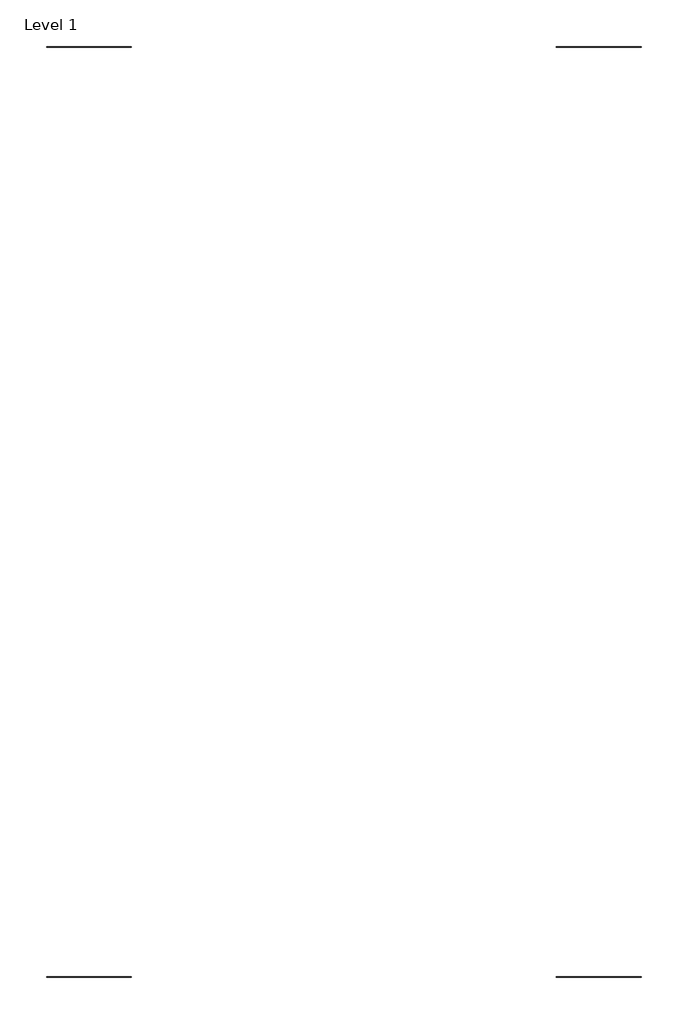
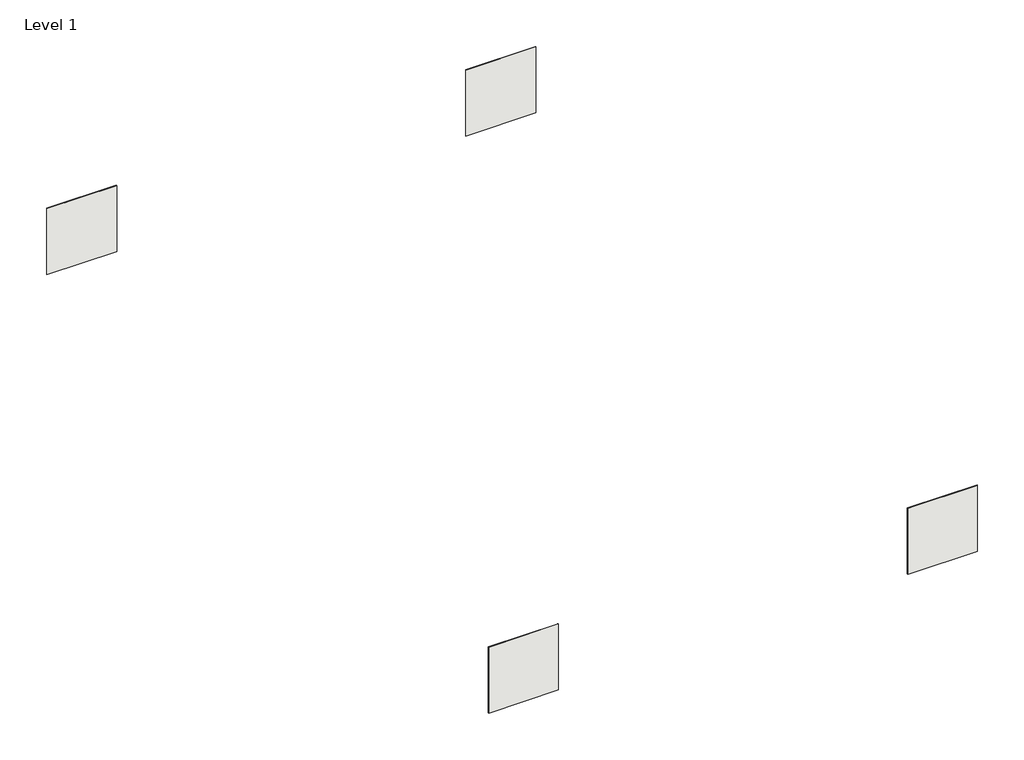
# One storey: 4 coverings.
"""IFC4 building model written with IfcOpenShell, lengths in millimetres."""

from ifc_helpers import new_model, si_unit, origin, origin_with_axes, place, context, project, spatial, polyline, outline, extrude, element, save

model = new_model("IFC4")

# Units and contexts
model_context = context("Model", 3, world=origin())
ifc_project = project(units=[si_unit("LENGTHUNIT", "METRE", prefix="MILLI")], contexts=[model_context])

# Site, building, storey
site = spatial("IfcSite", under=ifc_project)
building = spatial("IfcBuilding", under=site)
storey = spatial("IfcBuildingStorey", under=building, Name="Level 1", Elevation=0.0)

# Coverings
placement = place(None, origin())
element("IfcCovering", 1, ObjectType="LOVE TILES-SENSE-BOTANIC DECORATION-35x70-MATT RECTIFIED-BEIGE", at=placement, inside=storey, context=model_context, shape_type="SweptSolid", body=[
    extrude(outline(polyline([(28997.0720096, -26211.9013387), (27997.0720096, -26211.9013387), (27997.0720096, -26203.2013387), (28997.0720096, -26203.2013387), (28997.0720096, -26211.9013387)])), origin_with_axes(), (0.0, 0.0, 1.0), 1000.0),
])
element("IfcCovering", 2, ObjectType="LOVE TILES-SENSE-BOTANIC DECORATION-35x70-MATT RECTIFIED-GREY", at=placement, inside=storey, context=model_context, shape_type="SweptSolid", body=[
    extrude(outline(polyline([(34997.0720096, -26211.9013387), (33997.0720096, -26211.9013387), (33997.0720096, -26203.2013387), (34997.0720096, -26203.2013387), (34997.0720096, -26211.9013387)])), origin_with_axes(), (0.0, 0.0, 1.0), 1000.0),
])
element("IfcCovering", 3, ObjectType="LOVE TILES-SENSE-BOTANIC DECORATION-35x70-MATT RECTIFIED-LIGHT GREY", at=placement, inside=storey, context=model_context, shape_type="SweptSolid", body=[
    extrude(outline(polyline([(28997.0720096, -37163.4937558), (27997.0720096, -37163.4937558), (27997.0720096, -37154.7937558), (28997.0720096, -37154.7937558), (28997.0720096, -37163.4937558)])), origin_with_axes(), (0.0, 0.0, 1.0), 1000.0),
])
element("IfcCovering", 4, ObjectType="LOVE TILES-SENSE-BOTANIC DECORATION-35x70-MATT RECTIFIED-WHITE", at=placement, inside=storey, context=model_context, shape_type="SweptSolid", body=[
    extrude(outline(polyline([(34997.0720096, -37163.4937558), (33997.0720096, -37163.4937558), (33997.0720096, -37154.7937558), (34997.0720096, -37154.7937558), (34997.0720096, -37163.4937558)])), origin_with_axes(), (0.0, 0.0, 1.0), 1000.0),
])

save(model, "model.ifc")
